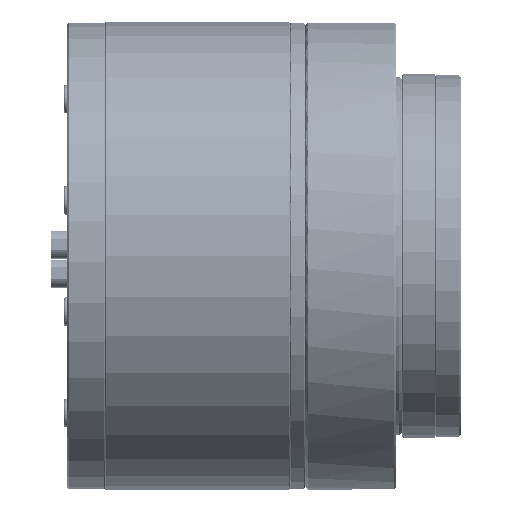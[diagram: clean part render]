
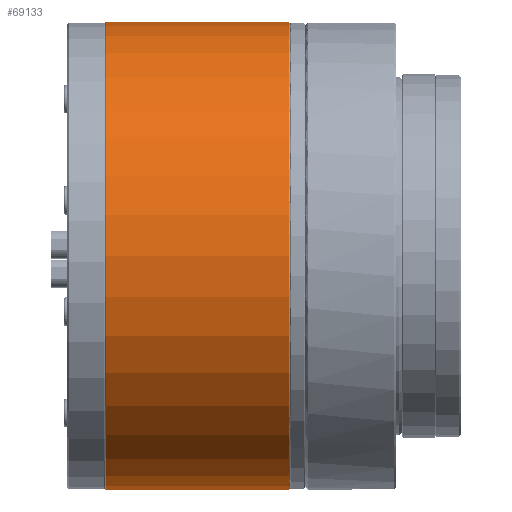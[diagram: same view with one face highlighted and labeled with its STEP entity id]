
A CAD part, front view. The second image highlights one B-rep face of the part: STEP entity #69133.
In plain terms, the highlighted cylindrical face has radius 45 mm (diameter 90 mm), a full revolution.
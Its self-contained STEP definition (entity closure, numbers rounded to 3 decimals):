
#4242 = DIRECTION ( 'NONE',  ( 1., 0., 0. ) ) ;
#13862 = EDGE_CURVE ( 'NONE', #23971, #23971, #84078, .T. ) ;
#23971 = VERTEX_POINT ( 'NONE', #158485 ) ;
#26903 = EDGE_LOOP ( 'NONE', ( #33579 ) ) ;
#30717 = DIRECTION ( 'NONE',  ( 0., 0., 1. ) ) ;
#32123 = EDGE_LOOP ( 'NONE', ( #118730 ) ) ;
#33579 = ORIENTED_EDGE ( 'NONE', *, *, #94190, .T. ) ;
#36082 = FACE_OUTER_BOUND ( 'NONE', #32123, .T. ) ;
#40281 = VERTEX_POINT ( 'NONE', #131505 ) ;
#53766 = AXIS2_PLACEMENT_3D ( 'NONE', #110391, #4242, #134574 ) ;
#57417 = CARTESIAN_POINT ( 'NONE',  ( -18.7, 0., 0. ) ) ;
#69133 = ADVANCED_FACE ( 'NONE', ( #36082, #96310 ), #153461, .T. ) ;
#70647 = DIRECTION ( 'NONE',  ( -1., 0., 0. ) ) ;
#84078 = CIRCLE ( 'NONE', #53766, 45. ) ;
#94190 = EDGE_CURVE ( 'NONE', #40281, #40281, #125383, .T. ) ;
#94656 = AXIS2_PLACEMENT_3D ( 'NONE', #57417, #70647, #123079 ) ;
#96310 = FACE_OUTER_BOUND ( 'NONE', #26903, .T. ) ;
#110391 = CARTESIAN_POINT ( 'NONE',  ( -53.9, 0., 0. ) ) ;
#113061 = AXIS2_PLACEMENT_3D ( 'NONE', #159728, #156370, #30717 ) ;
#118730 = ORIENTED_EDGE ( 'NONE', *, *, #13862, .T. ) ;
#123079 = DIRECTION ( 'NONE',  ( 0., 0., 1. ) ) ;
#125383 = CIRCLE ( 'NONE', #94656, 45. ) ;
#131505 = CARTESIAN_POINT ( 'NONE',  ( -18.7, 0., 45. ) ) ;
#134574 = DIRECTION ( 'NONE',  ( 0., 0., -1. ) ) ;
#153461 = CYLINDRICAL_SURFACE ( 'NONE', #113061, 45. ) ;
#156370 = DIRECTION ( 'NONE',  ( -1., 0., 0. ) ) ;
#158485 = CARTESIAN_POINT ( 'NONE',  ( -53.9, 0., -45. ) ) ;
#159728 = CARTESIAN_POINT ( 'NONE',  ( -70.402, 0., 0. ) ) ;
